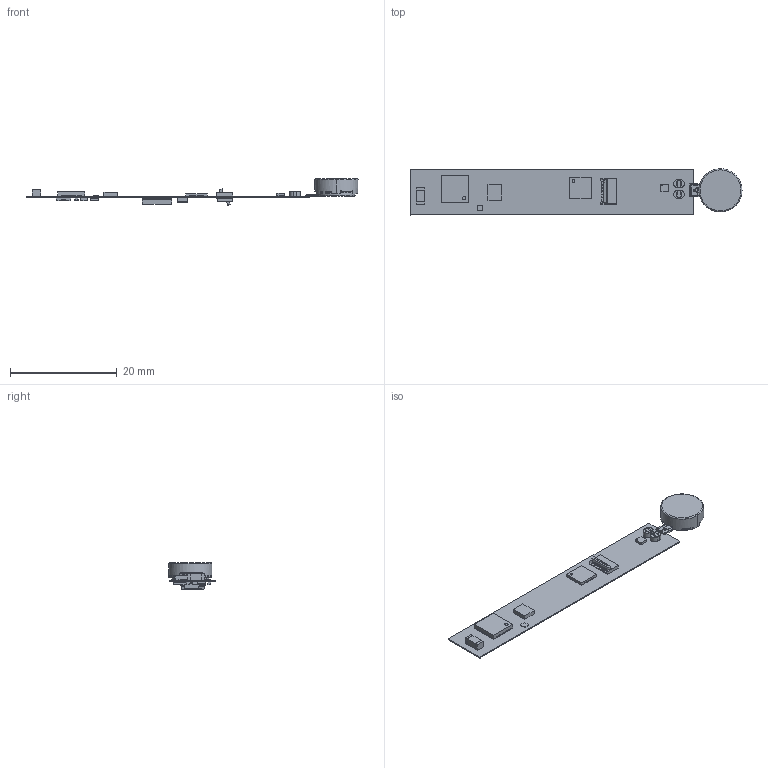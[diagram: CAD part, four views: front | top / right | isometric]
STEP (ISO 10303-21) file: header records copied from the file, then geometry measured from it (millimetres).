
FILE_DESCRIPTION(('Open CASCADE Model'),'2;1');
FILE_NAME('Open CASCADE Shape Model','2024-10-07T13:34:41',('Author'),( 'Open CASCADE'),'Open CASCADE STEP processor 7.5','Open CASCADE 7.5' ,'Unknown');
FILE_SCHEMA(('AUTOMOTIVE_DESIGN { 1 0 10303 214 1 1 1 1 }'));
Length unit declared in the file: millimetre
Products named in the file (94): PCB; Board; Open CASCADE STEP translator 7.5 1.1.1; M2; G0832008; JK002; XKJ002_ASM; XK004; RB002; JIAOSHUI; C4; 7955213632; Terminal; Open CASCADE STEP translator 6.8 5.1.1; Open CASCADE STEP translator 6.8 5.1.2; Mid_Body; Open CASCADE STEP translator 6.8 5.2.1; C3; 6170870896; C2; C1; 14033287328; X2; 6400414336; Extruded; X1; ABM11W-32.0000MHZ-8-B1U-T3; U7; 6700244768; Open CASCADE STEP translator 7.5 7.1; Body; Open CASCADE STEP translator 7.5 7.2.1; ball; U6; BHI360; U5; 6218485984; Open CASCADE STEP translator 7.5 27.1; Open CASCADE STEP translator 7.5 27.2.1; Thermal Shape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
Assembly tree (183 placements, depth 5):
  PCB
    Board
      Open CASCADE STEP translator 7.5 1.1.1
    M2
      G0832008
        JK002
        XKJ002_ASM
          XK004
          RB002
          JIAOSHUI
    C4
      7955213632
        Terminal
          Open CASCADE STEP translator 6.8 5.1.1
          Open CASCADE STEP translator 6.8 5.1.2
        Mid_Body
          Open CASCADE STEP translator 6.8 5.2.1
    C3
      6170870896
        Terminal
          Open CASCADE STEP translator 6.8 5.1.1
          Open CASCADE STEP translator 6.8 5.1.2
        Mid_Body
          Open CASCADE STEP translator 6.8 5.2.1
    C2
      7955213632
        Terminal
          Open CASCADE STEP translator 6.8 5.1.1
          Open CASCADE STEP translator 6.8 5.1.2
        Mid_Body
          Open CASCADE STEP translator 6.8 5.2.1
    C1
      14033287328
        Terminal
          Open CASCADE STEP translator 6.8 5.1.1
          Open CASCADE STEP translator 6.8 5.1.2
        Mid_Body
          Open CASCADE STEP translator 6.8 5.2.1
    X2
      6400414336
        Extruded
    X1
      ABM11W-32.0000MHZ-8-B1U-T3
    U7
      6700244768
        Open CASCADE STEP translator 7.5 7.1
        Body
          Open CASCADE STEP translator 7.5 7.2.1
        ball  x8
    U6
      BHI360
    U5
      6218485984
        Open CASCADE STEP translator 7.5 27.1
        Body
          Open CASCADE STEP translator 7.5 27.2.1
        Thermal Shape
        Pin Shape  x28
          Open CASCADE STEP translator 7.5 27.4.1
    U4
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Bounding box: 62.31 x 8.7 x 5.01 mm (x, y, z)
Volume: 220.1 mm3; surface area: 1877.7 mm2
Topology: 173 solids, 177 shells, 3364 faces, 8191 edges, 5245 vertices
Faces by surface type: plane 2572, cylinder 516, bspline 136, sphere 135, torus 5
Full cylindrical faces by diameter (mm): 0.15 x1, 0.18 x1, 0.191 x1, 0.25 x1, 0.5 x1, 0.637 x1, 0.85 x1, 1.5 x4
Entity records: 61575 total; most frequent: CARTESIAN_POINT 12457, ORIENTED_EDGE 9154, DIRECTION 8966, EDGE_CURVE 4579, LINE 3506, VECTOR 3506, VERTEX_POINT 2933, AXIS2_PLACEMENT_3D 2730
